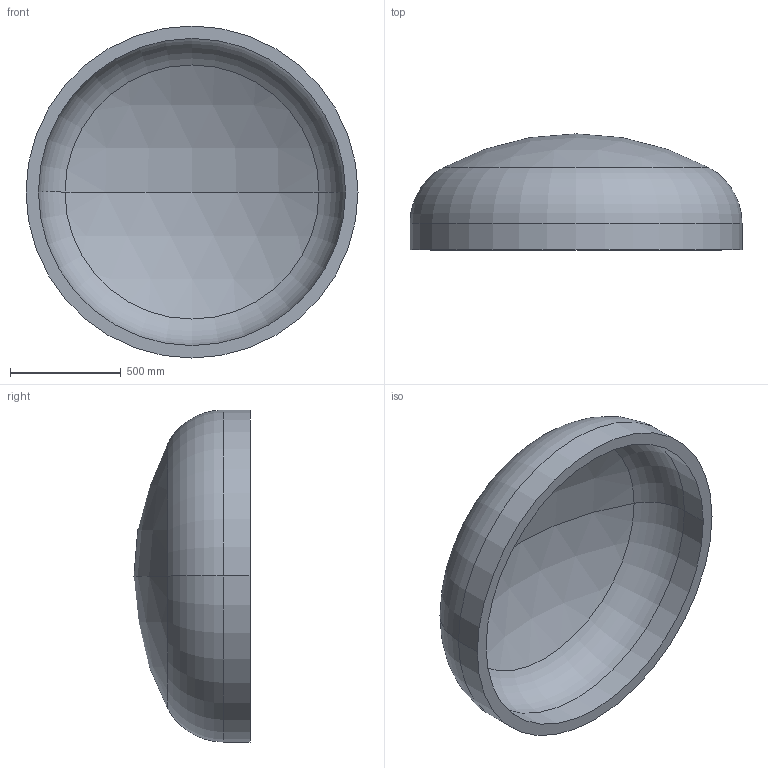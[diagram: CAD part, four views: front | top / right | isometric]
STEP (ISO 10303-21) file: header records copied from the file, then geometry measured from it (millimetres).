
FILE_DESCRIPTION (( 'STEP AP203' ), '1' );
FILE_NAME ('DIN 28013 Korbbogenform_-_Boden DIN 28013 - 1500 x 120 - I - s=56.step', '2016-07-01T10:50:05', ( '' ), ( '' ), 'SwSTEP 2.0', 'SolidWorks 2013', '' );
FILE_SCHEMA (( 'CONFIG_CONTROL_DESIGN' ));
Length unit declared in the file: millimetre
Products named in the file (1): DIN 28013 Korbbogenform_-_Boden DIN 28013 - 1500 x 120 - I - s=56
Bounding box: 1500 x 524.18 x 1500 mm (x, y, z)
Volume: 160943044.4 mm3; surface area: 6008574.1 mm2
Topology: 1 solids, 1 shells, 13 faces, 24 edges, 14 vertices
Faces by surface type: torus 4, cylinder 4, sphere 4, plane 1
Entity records: 407 total; most frequent: DIRECTION 72, CARTESIAN_POINT 52, ORIENTED_EDGE 48, AXIS2_PLACEMENT_3D 34, EDGE_CURVE 24, CIRCLE 20, EDGE_LOOP 14, VERTEX_POINT 14
